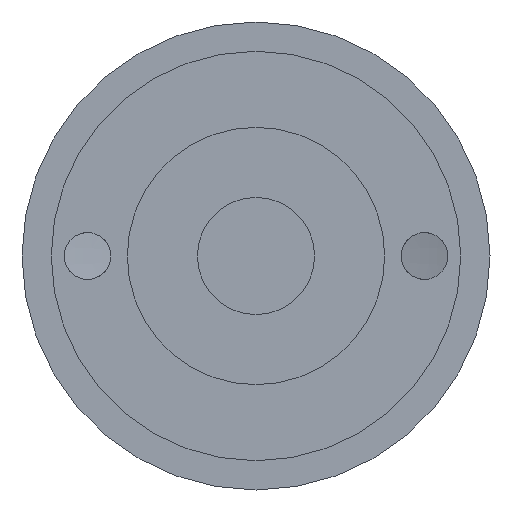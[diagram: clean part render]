
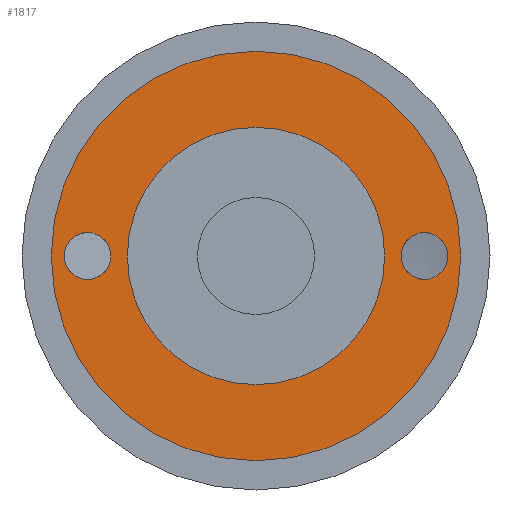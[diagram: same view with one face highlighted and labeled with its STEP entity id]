
A CAD part, front view. The second image highlights one B-rep face of the part: STEP entity #1817.
In plain terms, the highlighted planar face has unit normal (0, -1, 0).
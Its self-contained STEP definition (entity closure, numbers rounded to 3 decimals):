
#22 = FACE_BOUND ( 'NONE', #1758, .T. ) ;
#39 = VERTEX_POINT ( 'NONE', #1680 ) ;
#76 = CARTESIAN_POINT ( 'NONE',  ( 36., 0., -5. ) ) ;
#117 = DIRECTION ( 'NONE',  ( 0., 1., 0. ) ) ;
#134 = DIRECTION ( 'NONE',  ( 0., 0., 1. ) ) ;
#162 = CIRCLE ( 'NONE', #1205, 43.75 ) ;
#175 = ORIENTED_EDGE ( 'NONE', *, *, #2390, .F. ) ;
#244 = DIRECTION ( 'NONE',  ( 0., 0., 1. ) ) ;
#389 = VERTEX_POINT ( 'NONE', #2707 ) ;
#423 = VERTEX_POINT ( 'NONE', #2203 ) ;
#516 = AXIS2_PLACEMENT_3D ( 'NONE', #814, #2139, #2665 ) ;
#648 = DIRECTION ( 'NONE',  ( 0., -1., 0. ) ) ;
#668 = CIRCLE ( 'NONE', #1981, 5. ) ;
#689 = ORIENTED_EDGE ( 'NONE', *, *, #1818, .F. ) ;
#767 = AXIS2_PLACEMENT_3D ( 'NONE', #1868, #2061, #2997 ) ;
#769 = AXIS2_PLACEMENT_3D ( 'NONE', #2800, #1486, #2409 ) ;
#771 = ORIENTED_EDGE ( 'NONE', *, *, #1280, .F. ) ;
#814 = CARTESIAN_POINT ( 'NONE',  ( 36., 0., 0. ) ) ;
#915 = AXIS2_PLACEMENT_3D ( 'NONE', #1594, #117, #134 ) ;
#985 = ORIENTED_EDGE ( 'NONE', *, *, #1482, .T. ) ;
#1041 = DIRECTION ( 'NONE',  ( 0., 1., 0. ) ) ;
#1049 = ORIENTED_EDGE ( 'NONE', *, *, #1685, .F. ) ;
#1056 = CARTESIAN_POINT ( 'NONE',  ( 0., 0., 0. ) ) ;
#1085 = ORIENTED_EDGE ( 'NONE', *, *, #1118, .T. ) ;
#1118 = EDGE_CURVE ( 'NONE', #39, #389, #668, .T. ) ;
#1124 = CIRCLE ( 'NONE', #2960, 5. ) ;
#1181 = DIRECTION ( 'NONE',  ( 0., -1., 0. ) ) ;
#1205 = AXIS2_PLACEMENT_3D ( 'NONE', #1056, #1041, #1694 ) ;
#1207 = ORIENTED_EDGE ( 'NONE', *, *, #2589, .F. ) ;
#1238 = FACE_BOUND ( 'NONE', #1579, .T. ) ;
#1280 = EDGE_CURVE ( 'NONE', #1391, #1628, #162, .T. ) ;
#1355 = CARTESIAN_POINT ( 'NONE',  ( -36., 0., 0. ) ) ;
#1386 = CARTESIAN_POINT ( 'NONE',  ( 36., 0., 5. ) ) ;
#1391 = VERTEX_POINT ( 'NONE', #2742 ) ;
#1433 = FACE_OUTER_BOUND ( 'NONE', #1475, .T. ) ;
#1439 = VERTEX_POINT ( 'NONE', #1386 ) ;
#1475 = EDGE_LOOP ( 'NONE', ( #1207, #771 ) ) ;
#1482 = EDGE_CURVE ( 'NONE', #389, #39, #1985, .T. ) ;
#1486 = DIRECTION ( 'NONE',  ( 0., -1., 0. ) ) ;
#1557 = CIRCLE ( 'NONE', #2323, 27.5 ) ;
#1579 = EDGE_LOOP ( 'NONE', ( #689, #175 ) ) ;
#1594 = CARTESIAN_POINT ( 'NONE',  ( 0., 0., 0. ) ) ;
#1628 = VERTEX_POINT ( 'NONE', #2238 ) ;
#1680 = CARTESIAN_POINT ( 'NONE',  ( -36., 0., 5. ) ) ;
#1685 = EDGE_CURVE ( 'NONE', #3021, #1439, #1124, .T. ) ;
#1694 = DIRECTION ( 'NONE',  ( 0., 0., 1. ) ) ;
#1758 = EDGE_LOOP ( 'NONE', ( #1049, #2145 ) ) ;
#1817 = ADVANCED_FACE ( 'NONE', ( #2394, #22, #1238, #1433 ), #2631, .F. ) ;
#1818 = EDGE_CURVE ( 'NONE', #423, #1971, #3012, .T. ) ;
#1838 = CIRCLE ( 'NONE', #516, 5. ) ;
#1868 = CARTESIAN_POINT ( 'NONE',  ( -36., 0., 0. ) ) ;
#1886 = CIRCLE ( 'NONE', #915, 43.75 ) ;
#1971 = VERTEX_POINT ( 'NONE', #2135 ) ;
#1981 = AXIS2_PLACEMENT_3D ( 'NONE', #1355, #2041, #2733 ) ;
#1985 = CIRCLE ( 'NONE', #767, 5. ) ;
#2041 = DIRECTION ( 'NONE',  ( 0., 1., 0. ) ) ;
#2061 = DIRECTION ( 'NONE',  ( 0., 1., 0. ) ) ;
#2078 = AXIS2_PLACEMENT_3D ( 'NONE', #2850, #2108, #244 ) ;
#2092 = EDGE_LOOP ( 'NONE', ( #985, #1085 ) ) ;
#2096 = DIRECTION ( 'NONE',  ( 0., 0., -1. ) ) ;
#2108 = DIRECTION ( 'NONE',  ( 0., 1., 0. ) ) ;
#2135 = CARTESIAN_POINT ( 'NONE',  ( 0., 0., 27.5 ) ) ;
#2139 = DIRECTION ( 'NONE',  ( 0., -1., 0. ) ) ;
#2145 = ORIENTED_EDGE ( 'NONE', *, *, #2507, .F. ) ;
#2203 = CARTESIAN_POINT ( 'NONE',  ( 0., 0., -27.5 ) ) ;
#2238 = CARTESIAN_POINT ( 'NONE',  ( 0., 0., -43.75 ) ) ;
#2323 = AXIS2_PLACEMENT_3D ( 'NONE', #2547, #1181, #2096 ) ;
#2390 = EDGE_CURVE ( 'NONE', #1971, #423, #1557, .T. ) ;
#2394 = FACE_BOUND ( 'NONE', #2092, .T. ) ;
#2409 = DIRECTION ( 'NONE',  ( 0., 0., -1. ) ) ;
#2507 = EDGE_CURVE ( 'NONE', #1439, #3021, #1838, .T. ) ;
#2547 = CARTESIAN_POINT ( 'NONE',  ( 0., 0., 0. ) ) ;
#2549 = DIRECTION ( 'NONE',  ( 0., 0., -1. ) ) ;
#2589 = EDGE_CURVE ( 'NONE', #1628, #1391, #1886, .T. ) ;
#2631 = PLANE ( 'NONE',  #2078 ) ;
#2665 = DIRECTION ( 'NONE',  ( 0., 0., -1. ) ) ;
#2707 = CARTESIAN_POINT ( 'NONE',  ( -36., 0., -5. ) ) ;
#2733 = DIRECTION ( 'NONE',  ( 0., 0., -1. ) ) ;
#2742 = CARTESIAN_POINT ( 'NONE',  ( 0., 0., 43.75 ) ) ;
#2800 = CARTESIAN_POINT ( 'NONE',  ( 0., 0., 0. ) ) ;
#2850 = CARTESIAN_POINT ( 'NONE',  ( 0., 0., 0. ) ) ;
#2960 = AXIS2_PLACEMENT_3D ( 'NONE', #2980, #648, #2549 ) ;
#2980 = CARTESIAN_POINT ( 'NONE',  ( 36., 0., 0. ) ) ;
#2997 = DIRECTION ( 'NONE',  ( 0., 0., -1. ) ) ;
#3012 = CIRCLE ( 'NONE', #769, 27.5 ) ;
#3021 = VERTEX_POINT ( 'NONE', #76 ) ;
